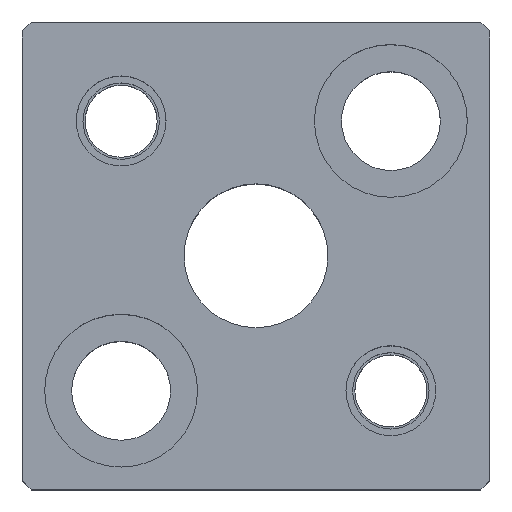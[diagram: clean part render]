
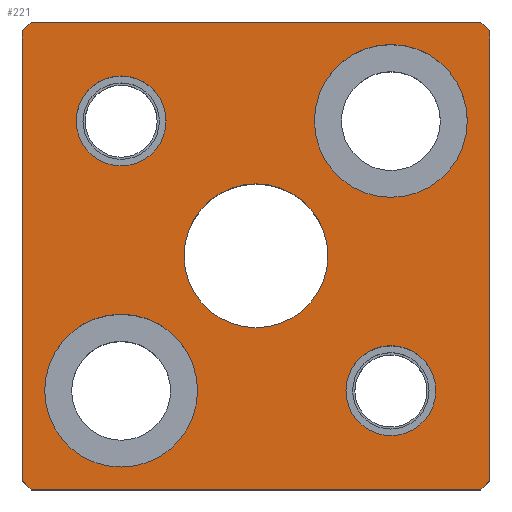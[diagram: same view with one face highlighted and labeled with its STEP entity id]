
A CAD part, top view. The second image highlights one B-rep face of the part: STEP entity #221.
In plain terms, the highlighted planar face has unit normal (0, 0, 1).
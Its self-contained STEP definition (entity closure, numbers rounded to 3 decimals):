
#103=FACE_BOUND('',#329,.T.);
#104=FACE_BOUND('',#330,.T.);
#105=FACE_BOUND('',#331,.T.);
#106=FACE_BOUND('',#332,.T.);
#107=FACE_BOUND('',#333,.T.);
#108=FACE_BOUND('',#334,.T.);
#157=CIRCLE('',#928,8.5);
#159=CIRCLE('',#931,8.5);
#161=CIRCLE('',#935,8.5);
#163=CIRCLE('',#938,8.5);
#165=CIRCLE('',#942,5.);
#166=CIRCLE('',#943,5.);
#167=CIRCLE('',#944,5.);
#168=CIRCLE('',#945,5.);
#169=CIRCLE('',#946,8.);
#170=CIRCLE('',#947,8.);
#221=ADVANCED_FACE('',(#103,#104,#105,#106,#107,#108),#260,.T.);
#260=PLANE('',#948);
#329=EDGE_LOOP('',(#469,#470,#471,#472,#473,#474,#475,#476));
#330=EDGE_LOOP('',(#477,#478));
#331=EDGE_LOOP('',(#479,#480));
#332=EDGE_LOOP('',(#481,#482));
#333=EDGE_LOOP('',(#483,#484));
#334=EDGE_LOOP('',(#485,#486));
#469=ORIENTED_EDGE('',*,*,#683,.T.);
#470=ORIENTED_EDGE('',*,*,#680,.T.);
#471=ORIENTED_EDGE('',*,*,#698,.T.);
#472=ORIENTED_EDGE('',*,*,#695,.T.);
#473=ORIENTED_EDGE('',*,*,#692,.T.);
#474=ORIENTED_EDGE('',*,*,#676,.T.);
#475=ORIENTED_EDGE('',*,*,#673,.T.);
#476=ORIENTED_EDGE('',*,*,#669,.T.);
#477=ORIENTED_EDGE('',*,*,#727,.F.);
#478=ORIENTED_EDGE('',*,*,#728,.F.);
#479=ORIENTED_EDGE('',*,*,#729,.F.);
#480=ORIENTED_EDGE('',*,*,#730,.F.);
#481=ORIENTED_EDGE('',*,*,#725,.F.);
#482=ORIENTED_EDGE('',*,*,#721,.F.);
#483=ORIENTED_EDGE('',*,*,#719,.F.);
#484=ORIENTED_EDGE('',*,*,#715,.F.);
#485=ORIENTED_EDGE('',*,*,#731,.T.);
#486=ORIENTED_EDGE('',*,*,#732,.T.);
#595=VERTEX_POINT('',#1264);
#596=VERTEX_POINT('',#1266);
#599=VERTEX_POINT('',#1274);
#601=VERTEX_POINT('',#1280);
#604=VERTEX_POINT('',#1287);
#605=VERTEX_POINT('',#1289);
#612=VERTEX_POINT('',#1312);
#614=VERTEX_POINT('',#1318);
#625=VERTEX_POINT('',#1357);
#626=VERTEX_POINT('',#1358);
#629=VERTEX_POINT('',#1370);
#630=VERTEX_POINT('',#1371);
#633=VERTEX_POINT('',#1383);
#634=VERTEX_POINT('',#1384);
#635=VERTEX_POINT('',#1387);
#636=VERTEX_POINT('',#1388);
#637=VERTEX_POINT('',#1391);
#638=VERTEX_POINT('',#1392);
#669=EDGE_CURVE('',#596,#595,#781,.T.);
#673=EDGE_CURVE('',#599,#596,#785,.T.);
#676=EDGE_CURVE('',#601,#599,#788,.T.);
#680=EDGE_CURVE('',#605,#604,#792,.T.);
#683=EDGE_CURVE('',#595,#605,#795,.T.);
#692=EDGE_CURVE('',#612,#601,#804,.T.);
#695=EDGE_CURVE('',#614,#612,#807,.T.);
#698=EDGE_CURVE('',#604,#614,#810,.T.);
#715=EDGE_CURVE('',#625,#626,#157,.T.);
#719=EDGE_CURVE('',#626,#625,#159,.T.);
#721=EDGE_CURVE('',#629,#630,#161,.T.);
#725=EDGE_CURVE('',#630,#629,#163,.T.);
#727=EDGE_CURVE('',#633,#634,#165,.T.);
#728=EDGE_CURVE('',#634,#633,#166,.T.);
#729=EDGE_CURVE('',#635,#636,#167,.T.);
#730=EDGE_CURVE('',#636,#635,#168,.T.);
#731=EDGE_CURVE('',#637,#638,#169,.T.);
#732=EDGE_CURVE('',#638,#637,#170,.T.);
#781=LINE('',#1265,#843);
#785=LINE('',#1273,#847);
#788=LINE('',#1279,#850);
#792=LINE('',#1288,#854);
#795=LINE('',#1294,#857);
#804=LINE('',#1311,#866);
#807=LINE('',#1317,#869);
#810=LINE('',#1323,#872);
#843=VECTOR('',#1005,1.);
#847=VECTOR('',#1011,1.);
#850=VECTOR('',#1016,1.);
#854=VECTOR('',#1022,1.);
#857=VECTOR('',#1027,1.);
#866=VECTOR('',#1042,1.);
#869=VECTOR('',#1047,1.);
#872=VECTOR('',#1052,1.);
#928=AXIS2_PLACEMENT_3D('',#1356,#1091,#1092);
#931=AXIS2_PLACEMENT_3D('',#1365,#1099,#1100);
#935=AXIS2_PLACEMENT_3D('',#1369,#1107,#1108);
#938=AXIS2_PLACEMENT_3D('',#1378,#1115,#1116);
#942=AXIS2_PLACEMENT_3D('',#1382,#1123,#1124);
#943=AXIS2_PLACEMENT_3D('',#1385,#1125,#1126);
#944=AXIS2_PLACEMENT_3D('',#1386,#1127,#1128);
#945=AXIS2_PLACEMENT_3D('',#1389,#1129,#1130);
#946=AXIS2_PLACEMENT_3D('',#1390,#1131,#1132);
#947=AXIS2_PLACEMENT_3D('',#1393,#1133,#1134);
#948=AXIS2_PLACEMENT_3D('',#1394,#1135,#1136);
#1005=DIRECTION('',(1.,0.,0.));
#1011=DIRECTION('',(0.707,-0.707,0.));
#1016=DIRECTION('',(0.,-1.,0.));
#1022=DIRECTION('',(0.,1.,0.));
#1027=DIRECTION('',(0.707,0.707,0.));
#1042=DIRECTION('',(-0.707,-0.707,0.));
#1047=DIRECTION('',(-1.,0.,0.));
#1052=DIRECTION('',(-0.707,0.707,0.));
#1091=DIRECTION('',(0.,0.,1.));
#1092=DIRECTION('',(-1.,0.,0.));
#1099=DIRECTION('',(0.,0.,1.));
#1100=DIRECTION('',(1.,0.,0.));
#1107=DIRECTION('',(0.,0.,1.));
#1108=DIRECTION('',(-1.,0.,0.));
#1115=DIRECTION('',(0.,0.,1.));
#1116=DIRECTION('',(1.,0.,0.));
#1123=DIRECTION('',(0.,0.,1.));
#1124=DIRECTION('',(1.,0.,0.));
#1125=DIRECTION('',(0.,0.,1.));
#1126=DIRECTION('',(-1.,0.,0.));
#1127=DIRECTION('',(0.,0.,1.));
#1128=DIRECTION('',(1.,0.,0.));
#1129=DIRECTION('',(0.,0.,1.));
#1130=DIRECTION('',(-1.,0.,0.));
#1131=DIRECTION('',(0.,0.,-1.));
#1132=DIRECTION('',(-1.,0.,0.));
#1133=DIRECTION('',(0.,0.,-1.));
#1134=DIRECTION('',(1.,0.,0.));
#1135=DIRECTION('',(0.,0.,1.));
#1136=DIRECTION('',(-1.,0.,0.));
#1264=CARTESIAN_POINT('',(25.,-26.,30.));
#1265=CARTESIAN_POINT('',(-25.,-26.,30.));
#1266=CARTESIAN_POINT('',(-25.,-26.,30.));
#1273=CARTESIAN_POINT('',(-25.,-26.,30.));
#1274=CARTESIAN_POINT('',(-26.,-25.,30.));
#1279=CARTESIAN_POINT('',(-26.,25.,30.));
#1280=CARTESIAN_POINT('',(-26.,25.,30.));
#1287=CARTESIAN_POINT('',(26.,25.,30.));
#1288=CARTESIAN_POINT('',(26.,25.,30.));
#1289=CARTESIAN_POINT('',(26.,-25.,30.));
#1294=CARTESIAN_POINT('',(26.,-25.,30.));
#1311=CARTESIAN_POINT('',(-26.,25.,30.));
#1312=CARTESIAN_POINT('',(-25.,26.,30.));
#1317=CARTESIAN_POINT('',(-25.,26.,30.));
#1318=CARTESIAN_POINT('',(25.,26.,30.));
#1323=CARTESIAN_POINT('',(25.,26.,30.));
#1356=CARTESIAN_POINT('',(-15.,-15.,30.));
#1357=CARTESIAN_POINT('',(-15.,-23.5,30.));
#1358=CARTESIAN_POINT('',(-15.,-6.5,30.));
#1365=CARTESIAN_POINT('',(-15.,-15.,30.));
#1369=CARTESIAN_POINT('',(15.,15.,30.));
#1370=CARTESIAN_POINT('',(15.,6.5,30.));
#1371=CARTESIAN_POINT('',(15.,23.5,30.));
#1378=CARTESIAN_POINT('',(15.,15.,30.));
#1382=CARTESIAN_POINT('',(-15.,15.,30.));
#1383=CARTESIAN_POINT('',(-15.,20.,30.));
#1384=CARTESIAN_POINT('',(-15.,10.,30.));
#1385=CARTESIAN_POINT('',(-15.,15.,30.));
#1386=CARTESIAN_POINT('',(15.,-15.,30.));
#1387=CARTESIAN_POINT('',(15.,-10.,30.));
#1388=CARTESIAN_POINT('',(15.,-20.,30.));
#1389=CARTESIAN_POINT('',(15.,-15.,30.));
#1390=CARTESIAN_POINT('',(0.,0.,30.));
#1391=CARTESIAN_POINT('',(0.,8.,30.));
#1392=CARTESIAN_POINT('',(0.,-8.,30.));
#1393=CARTESIAN_POINT('',(0.,0.,30.));
#1394=CARTESIAN_POINT('',(25.,-26.,30.));
